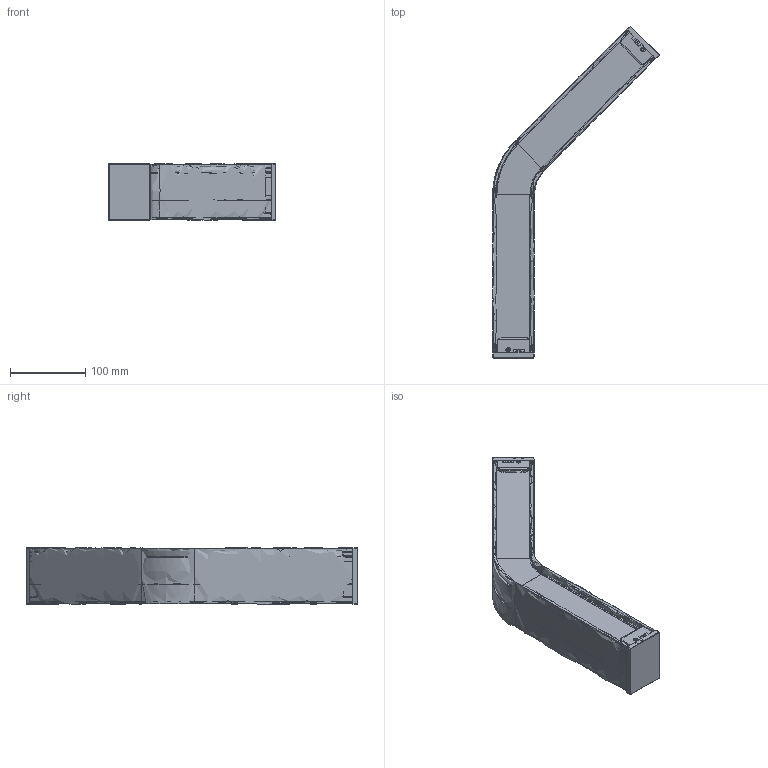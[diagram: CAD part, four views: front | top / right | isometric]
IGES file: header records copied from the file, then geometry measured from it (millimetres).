
Global section: file name: C:\Users\info\Desktop\CRIS\05. NEW PRODUCT\LUMINARIA KISS\3D para web\KISS A135.igs; native system: Rhinoceros ( Feb 27 2019 ); preprocessor: Trout Lake IGES 012 Feb 27 2019; date: 260424.115636; units: millimetre
Bounding box: 221.12 x 440.39 x 75 mm (x, y, z)
Surface area: 391190.6 mm2 (no closed solid volume)
Topology: 0 solids, 0 shells, 1922 faces, 17364 edges, 17358 vertices
Faces by surface type: bspline 1922
